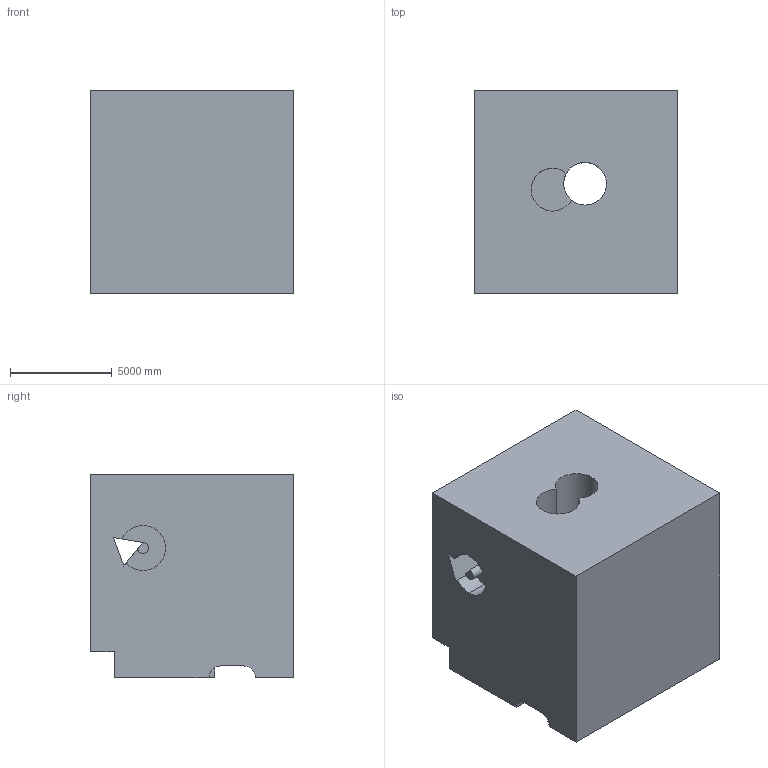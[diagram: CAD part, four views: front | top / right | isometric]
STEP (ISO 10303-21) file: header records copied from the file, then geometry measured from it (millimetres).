
FILE_DESCRIPTION (( 'STEP AP203' ), '1' );
FILE_NAME ('740.STEP', '2022-08-04T15:45:42', ( 'user' ), ( '' ), 'SwSTEP 2.0', 'SolidWorks 2021', '' );
FILE_SCHEMA (( 'CONFIG_CONTROL_DESIGN' ));
Length unit declared in the file: centimetre
Products named in the file (1): 740
Bounding box: 10000 x 10000 x 10000 mm (x, y, z)
Volume: 882194226409.9 mm3; surface area: 738558876.8 mm2
Topology: 1 solids, 1 shells, 37 faces, 107 edges, 71 vertices
Faces by surface type: plane 26, cylinder 11
Entity records: 1389 total; most frequent: CARTESIAN_POINT 304, ORIENTED_EDGE 214, DIRECTION 208, EDGE_CURVE 107, LINE 78, VECTOR 78, VERTEX_POINT 71, AXIS2_PLACEMENT_3D 65
